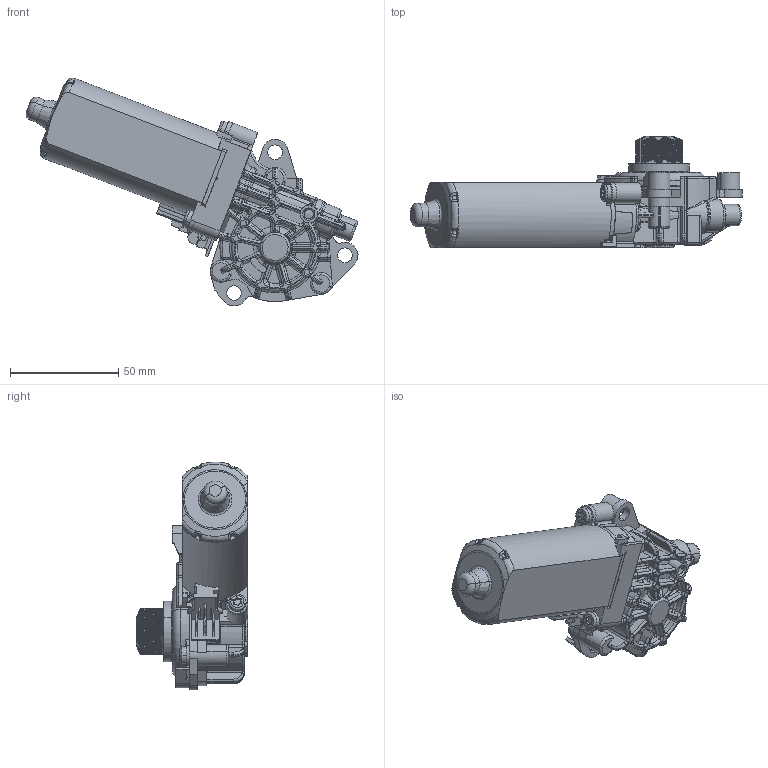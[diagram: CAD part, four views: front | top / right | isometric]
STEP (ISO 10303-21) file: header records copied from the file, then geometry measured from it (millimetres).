
FILE_DESCRIPTION(('CATIA V5 STEP Exchange'),'2;1');
FILE_NAME('X:\Uli\0390203045_AllCATPart.stp','2014-05-15T06:31:29+00:00',('none'),('none'),'CATIA Version 5 Release 19 SP 9 (IN-10)','CATIA V5 STEP AP214','none');
FILE_SCHEMA(('AUTOMOTIVE_DESIGN { 1 0 10303 214 1 1 1 1 }'));
Products named in the file (1): 0 390 203 045_AllCATPart
Bounding box: 153.38 x 51.65 x 105.32 mm (x, y, z)
Volume: 166296.1 mm3; surface area: 46085.1 mm2
Topology: 1 solids, 8 shells, 2668 faces, 7095 edges, 4358 vertices
Faces by surface type: cylinder 882, plane 836, torus 477, bspline 305, cone 89, sphere 79
Entity records: 113936 total; most frequent: CARTESIAN_POINT 36909, ORIENTED_EDGE 14034, DIRECTION 8737, EDGE_CURVE 7017, AXIS2_PLACEMENT_3D 4484, VERTEX_POINT 4358, EDGE_LOOP 2725, ADVANCED_FACE 2668
